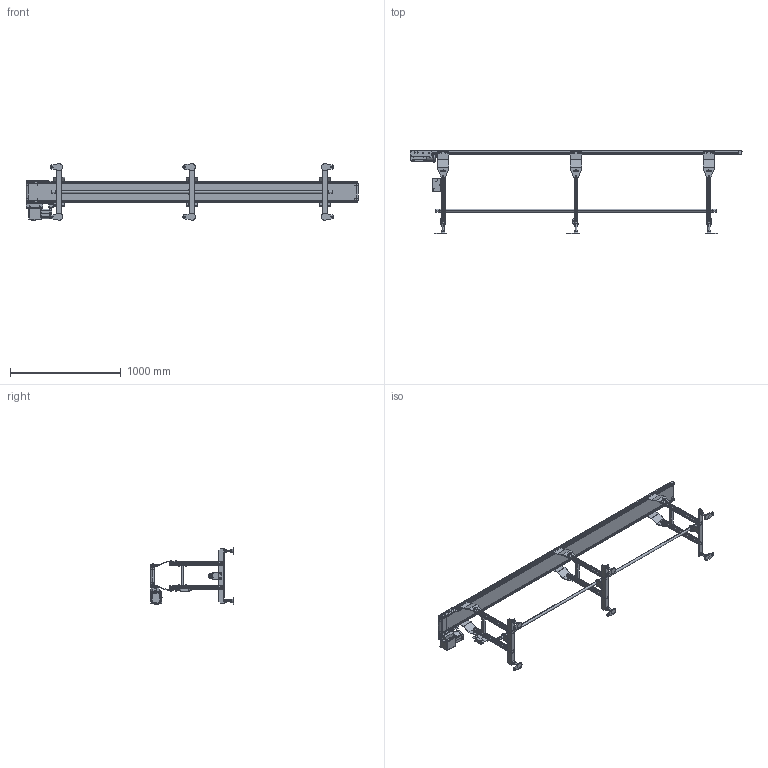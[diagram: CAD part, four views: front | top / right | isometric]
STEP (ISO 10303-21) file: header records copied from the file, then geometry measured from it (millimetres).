
FILE_DESCRIPTION( (''), '2;1');
FILE_NAME ('MB20-HS-306-150-300-R-K-100-O.stp','2025-01-29T15:45:01',(''),(''),'spGate 20.6.2 (****-****-****-****)','','');
FILE_SCHEMA (('AUTOMOTIVE_DESIGN'));
Length unit declared in the file: millimetre
Products named in the file (55): NewModel; TEMP_X_T-prt0; TEMP_X_T-prt1; TEMP_X_T-prt2; TEMP_X_T-prt3; TEMP_X_T-prt4; TEMP_X_T-prt5; TEMP_X_T-prt6; TEMP_X_T-prt7; TEMP_X_T-prt8; TEMP_X_T-prt9; TEMP_X_T-prt10; TEMP_X_T-prt11; TEMP_X_T-prt12; TEMP_X_T-prt13; TEMP_X_T-prt14; TEMP_X_T-prt15; TEMP_X_T-prt16; TEMP_X_T-prt17; TEMP_X_T-prt18; TEMP_X_T-prt19; TEMP_X_T-prt20; TEMP_X_T-prt21; TEMP_X_T-prt22; TEMP_X_T-prt23; TEMP_X_T-prt24; TEMP_X_T-prt25; TEMP_X_T-prt26; TEMP_X_T-prt27; TEMP_X_T-prt28; TEMP_X_T-prt29; TEMP_X_T-prt30; TEMP_X_T-prt31; TEMP_X_T-prt32; TEMP_X_T-prt33; TEMP_X_T-prt34; TEMP_X_T-prt35; TEMP_X_T-prt36; TEMP_X_T-prt37; TEMP_X_T-prt38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
Assembly tree (54 placements, depth 2):
  NewModel
    TEMP_X_T-prt0
    TEMP_X_T-prt1
    TEMP_X_T-prt2
    TEMP_X_T-prt3
    TEMP_X_T-prt4
    TEMP_X_T-prt5
    TEMP_X_T-prt6
    TEMP_X_T-prt7
    TEMP_X_T-prt8
    TEMP_X_T-prt9
    TEMP_X_T-prt10
    TEMP_X_T-prt11
    TEMP_X_T-prt12
    TEMP_X_T-prt13
    TEMP_X_T-prt14
    TEMP_X_T-prt15
    TEMP_X_T-prt16
    TEMP_X_T-prt17
    TEMP_X_T-prt18
    TEMP_X_T-prt19
    TEMP_X_T-prt20
    TEMP_X_T-prt21
    TEMP_X_T-prt22
    TEMP_X_T-prt23
    TEMP_X_T-prt24
    TEMP_X_T-prt25
    TEMP_X_T-prt26
    TEMP_X_T-prt27
    TEMP_X_T-prt28
    TEMP_X_T-prt29
    TEMP_X_T-prt30
    TEMP_X_T-prt31
    TEMP_X_T-prt32
    TEMP_X_T-prt33
    TEMP_X_T-prt34
    TEMP_X_T-prt35
    TEMP_X_T-prt36
    TEMP_X_T-prt37
    TEMP_X_T-prt38
    TEMP_X_T-prt39
    TEMP_X_T-prt40
    TEMP_X_T-prt41
    TEMP_X_T-prt42
    TEMP_X_T-prt43
    TEMP_X_T-prt44
    TEMP_X_T-prt45
    TEMP_X_T-prt46
    TEMP_X_T-prt47
    TEMP_X_T-prt48
    TEMP_X_T-prt49
    TEMP_X_T-prt50
    TEMP_X_T-prt51
    TEMP_X_T-prt52
    TEMP_X_T-prt53
Bounding box: 3001.5 x 752.8 x 512.5 mm (x, y, z)
Volume: 12370164.1 mm3; surface area: 5957056 mm2
Topology: 54 solids, 54 shells, 2710 faces, 6894 edges, 4480 vertices
Faces by surface type: plane 1967, cylinder 625, bspline 110, sphere 8
Entity records: 139397 total; most frequent: CARTESIAN_POINT 16837, ORIENTED_EDGE 13764, DIRECTION 13240, COLOUR_RGB 9646, PRESENTATION_STYLE_ASSIGNMENT 9646, STYLED_ITEM 9646, EDGE_CURVE 6882, DRAUGHTING_PRE_DEFINED_CURVE_FONT 6882
